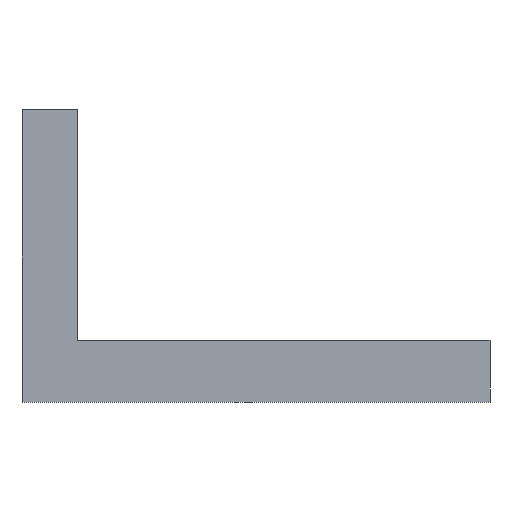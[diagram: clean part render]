
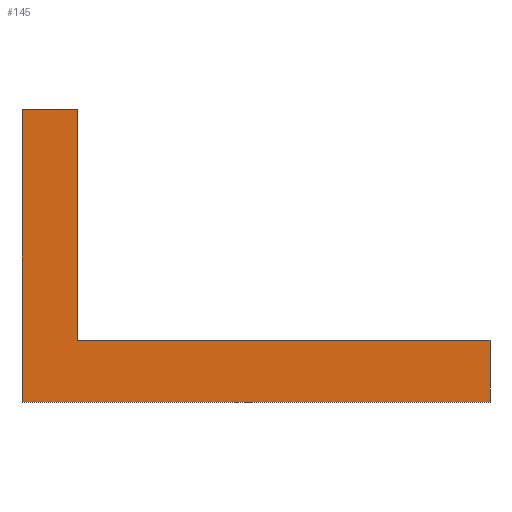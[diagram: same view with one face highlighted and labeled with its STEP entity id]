
A CAD part, top view. The second image highlights one B-rep face of the part: STEP entity #145.
In plain terms, the highlighted planar face has unit normal (0, 0, 1).
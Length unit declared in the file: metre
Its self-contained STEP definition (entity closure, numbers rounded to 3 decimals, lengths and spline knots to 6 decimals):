
#42=ORIENTED_EDGE('',*,*,#64,.T.);
#43=ORIENTED_EDGE('',*,*,#48,.T.);
#44=ORIENTED_EDGE('',*,*,#52,.T.);
#45=ORIENTED_EDGE('',*,*,#55,.T.);
#46=ORIENTED_EDGE('',*,*,#58,.T.);
#47=ORIENTED_EDGE('',*,*,#61,.T.);
#48=EDGE_CURVE('',#66,#67,#78,.F.);
#52=EDGE_CURVE('',#67,#70,#82,.F.);
#55=EDGE_CURVE('',#70,#72,#85,.T.);
#58=EDGE_CURVE('',#72,#74,#88,.F.);
#61=EDGE_CURVE('',#74,#76,#91,.T.);
#64=EDGE_CURVE('',#76,#66,#94,.T.);
#66=VERTEX_POINT('',#198);
#67=VERTEX_POINT('',#199);
#70=VERTEX_POINT('',#207);
#72=VERTEX_POINT('',#213);
#74=VERTEX_POINT('',#219);
#76=VERTEX_POINT('',#225);
#78=LINE('',#197,#96);
#82=LINE('',#206,#100);
#85=LINE('',#212,#103);
#88=LINE('',#218,#106);
#91=LINE('',#224,#109);
#94=LINE('',#230,#112);
#96=VECTOR('',#163,1.);
#100=VECTOR('',#169,1.);
#103=VECTOR('',#174,1.);
#106=VECTOR('',#179,1.);
#109=VECTOR('',#184,1.);
#112=VECTOR('',#189,1.);
#121=EDGE_LOOP('',(#42,#43,#44,#45,#46,#47));
#129=FACE_BOUND('',#121,.T.);
#137=PLANE('',#158);
#145=ADVANCED_FACE('',(#129),#137,.F.);
#158=AXIS2_PLACEMENT_3D('',#233,#193,#194);
#163=DIRECTION('',(-1.,0.,0.));
#169=DIRECTION('',(0.,-1.,0.));
#174=DIRECTION('',(-1.,0.,0.));
#179=DIRECTION('',(0.,-1.,0.));
#184=DIRECTION('',(-1.,0.,0.));
#189=DIRECTION('',(0.,-1.,0.));
#193=DIRECTION('',(0.,0.,-1.));
#194=DIRECTION('',(0.,-1.,0.));
#197=CARTESIAN_POINT('',(-0.035913,-0.000912,-0.03));
#198=CARTESIAN_POINT('',(-0.036413,-0.000912,-0.03));
#199=CARTESIAN_POINT('',(-0.035413,-0.000912,-0.03));
#206=CARTESIAN_POINT('',(-0.035413,0.,-0.03));
#207=CARTESIAN_POINT('',(-0.035413,-0.00078,-0.03));
#212=CARTESIAN_POINT('',(-0.035913,-0.00078,-0.03));
#213=CARTESIAN_POINT('',(-0.036294,-0.00078,-0.03));
#218=CARTESIAN_POINT('',(-0.036294,0.,-0.03));
#219=CARTESIAN_POINT('',(-0.036294,-0.000288,-0.03));
#224=CARTESIAN_POINT('',(-0.035913,-0.000288,-0.03));
#225=CARTESIAN_POINT('',(-0.036413,-0.000288,-0.03));
#230=CARTESIAN_POINT('',(-0.036413,0.,-0.03));
#233=CARTESIAN_POINT('',(-0.035913,0.,-0.03));
